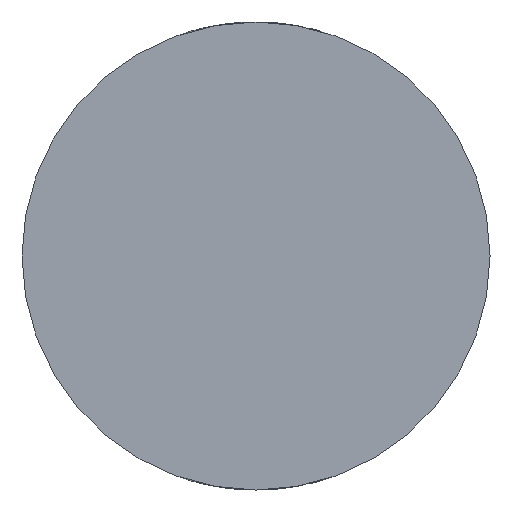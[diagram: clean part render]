
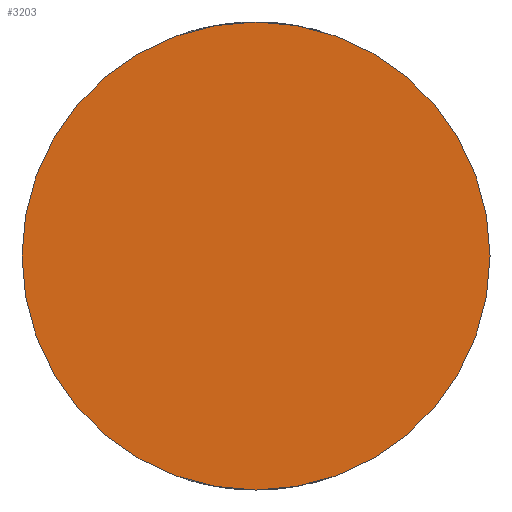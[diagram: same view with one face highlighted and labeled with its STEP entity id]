
A CAD part, front view. The second image highlights one B-rep face of the part: STEP entity #3203.
In plain terms, the highlighted planar face has unit normal (0, -1, 0).
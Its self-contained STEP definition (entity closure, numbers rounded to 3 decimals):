
#1016 = DIRECTION ( 'NONE',  ( 1., 0., 0. ) ) ;
#1360 = ORIENTED_EDGE ( 'NONE', *, *, #4921, .T. ) ;
#1697 = DIRECTION ( 'NONE',  ( 0., -1., 0. ) ) ;
#2022 = DIRECTION ( 'NONE',  ( 0., -1., 0. ) ) ;
#2233 = FACE_OUTER_BOUND ( 'NONE', #4040, .T. ) ;
#2618 = CARTESIAN_POINT ( 'NONE',  ( 0., -46., 0. ) ) ;
#2916 = AXIS2_PLACEMENT_3D ( 'NONE', #2618, #2022, #5604 ) ;
#3203 = ADVANCED_FACE ( 'NONE', ( #2233 ), #6722, .T. ) ;
#3223 = VERTEX_POINT ( 'NONE', #7244 ) ;
#3977 = CIRCLE ( 'NONE', #6697, 64. ) ;
#4040 = EDGE_LOOP ( 'NONE', ( #1360, #4707 ) ) ;
#4169 = CARTESIAN_POINT ( 'NONE',  ( 64., -46., 0. ) ) ;
#4377 = CARTESIAN_POINT ( 'NONE',  ( 0., -46., 0. ) ) ;
#4514 = CARTESIAN_POINT ( 'NONE',  ( 0., -46., 0. ) ) ;
#4707 = ORIENTED_EDGE ( 'NONE', *, *, #5122, .T. ) ;
#4921 = EDGE_CURVE ( 'NONE', #3223, #5824, #3977, .T. ) ;
#5035 = AXIS2_PLACEMENT_3D ( 'NONE', #4377, #5493, #1016 ) ;
#5117 = DIRECTION ( 'NONE',  ( 1., 0., 0. ) ) ;
#5122 = EDGE_CURVE ( 'NONE', #5824, #3223, #5880, .T. ) ;
#5493 = DIRECTION ( 'NONE',  ( 0., -1., 0. ) ) ;
#5604 = DIRECTION ( 'NONE',  ( 1., 0., 0. ) ) ;
#5824 = VERTEX_POINT ( 'NONE', #4169 ) ;
#5880 = CIRCLE ( 'NONE', #2916, 64. ) ;
#6697 = AXIS2_PLACEMENT_3D ( 'NONE', #4514, #1697, #5117 ) ;
#6722 = PLANE ( 'NONE',  #5035 ) ;
#7244 = CARTESIAN_POINT ( 'NONE',  ( -64., -46., 0. ) ) ;
